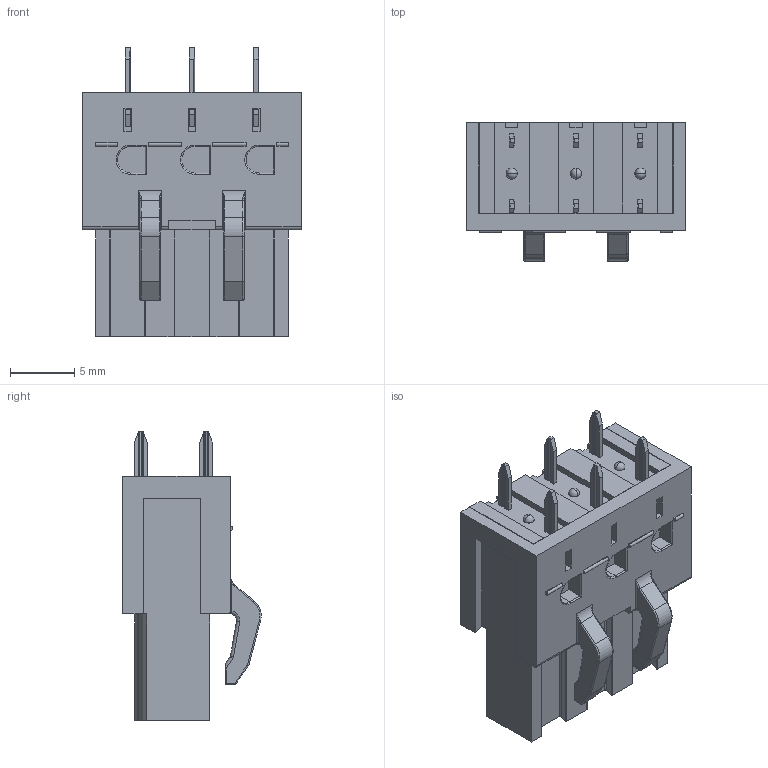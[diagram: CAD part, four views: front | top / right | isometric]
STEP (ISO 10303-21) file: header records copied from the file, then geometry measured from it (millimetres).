
FILE_DESCRIPTION((''),'2;1');
FILE_NAME('333','2019-04-19T',('zhenbing.lai'),(''),'CREO PARAMETRIC BY PTC INC, 2016260','CREO PARAMETRIC BY PTC INC, 2016260','');
FILE_SCHEMA(('CONFIG_CONTROL_DESIGN'));
Length unit declared in the file: millimetre
Products named in the file (1): 333
Bounding box: 17 x 10.76 x 22.5 mm (x, y, z)
Volume: 1951.5 mm3; surface area: 1663.7 mm2
Topology: 1 solids, 1 shells, 448 faces, 1226 edges, 789 vertices
Faces by surface type: plane 230, cylinder 147, bspline 24, torus 23, sphere 18, cone 6
Entity records: 14946 total; most frequent: CARTESIAN_POINT 3616, ORIENTED_EDGE 2416, DIRECTION 2313, EDGE_CURVE 1208, VERTEX_POINT 789, AXIS2_PLACEMENT_3D 785, VECTOR 743, LINE 743
